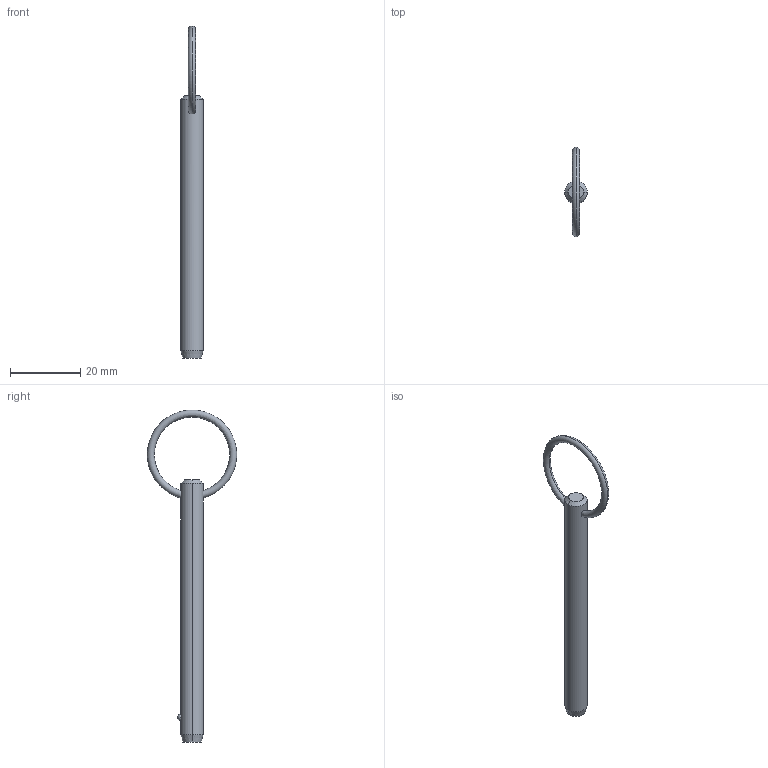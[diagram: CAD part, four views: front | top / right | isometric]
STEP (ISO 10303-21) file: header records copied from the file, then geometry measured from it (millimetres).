
FILE_DESCRIPTION (( 'STEP AP203' ), '1' );
FILE_NAME ('P1250.025-240.step', '2019-07-29T19:43:02', ( '' ), ( '' ), 'SwSTEP 2.0', 'SolidWorks 2017', '' );
FILE_SCHEMA (( 'CONFIG_CONTROL_DESIGN' ));
Length unit declared in the file: millimetre
Products named in the file (1): P1250.025-240
Bounding box: 6.35 x 25.38 x 94.32 mm (x, y, z)
Volume: 2553 mm3; surface area: 1943.6 mm2
Topology: 1 solids, 1 shells, 12 faces, 28 edges, 17 vertices
Faces by surface type: cone 4, torus 2, sphere 2, cylinder 2, plane 2
Entity records: 481 total; most frequent: CARTESIAN_POINT 148, DIRECTION 56, ORIENTED_EDGE 48, AXIS2_PLACEMENT_3D 25, EDGE_CURVE 24, VERTEX_POINT 15, EDGE_LOOP 15, FACE_OUTER_BOUND 12
